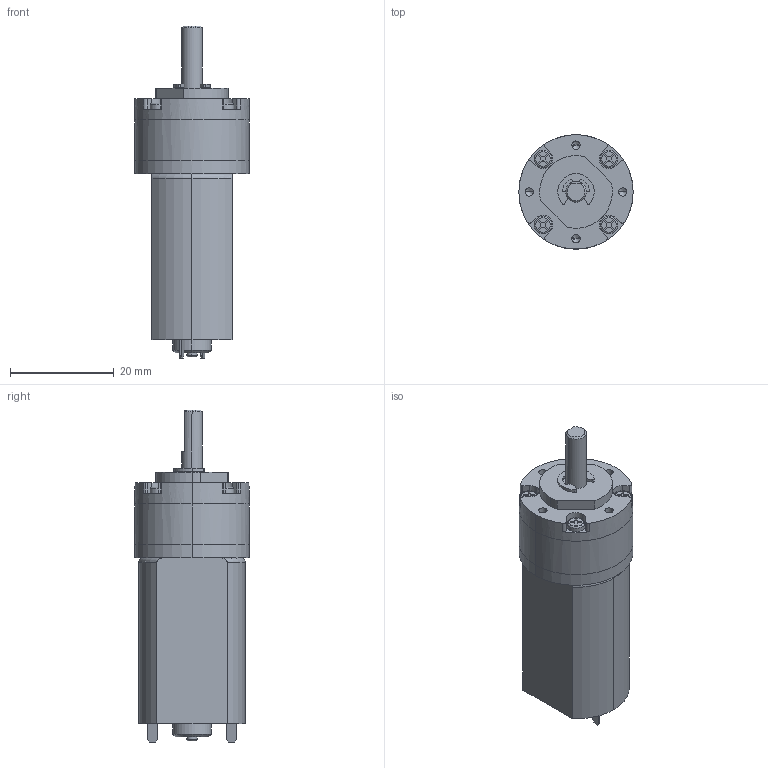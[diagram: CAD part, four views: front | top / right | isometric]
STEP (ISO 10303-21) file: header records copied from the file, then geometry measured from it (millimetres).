
FILE_DESCRIPTION((''),' ');
FILE_NAME('dsmp220_1.stp',' ',('R. Lindner'),('MSW GmbH'),' ','ACIS 14.0',' ');
FILE_SCHEMA(('automotive_design'));
Length unit declared in the file: inch
Products named in the file (4): DSMP220_1
Bounding box: 22 x 22 x 63.9 mm (x, y, z)
Volume: 16936.8 mm3; surface area: 7199.7 mm2
Topology: 4 solids, 4 shells, 357 faces, 955 edges, 610 vertices
Faces by surface type: cylinder 189, plane 125, cone 29, torus 14
Entity records: 14135 total; most frequent: DIRECTION 2080, CARTESIAN_POINT 1954, ORIENTED_EDGE 1862, EDGE_CURVE 931, AXIS2_PLACEMENT_3D 794, VERTEX_POINT 610, LINE 492, VECTOR 492
